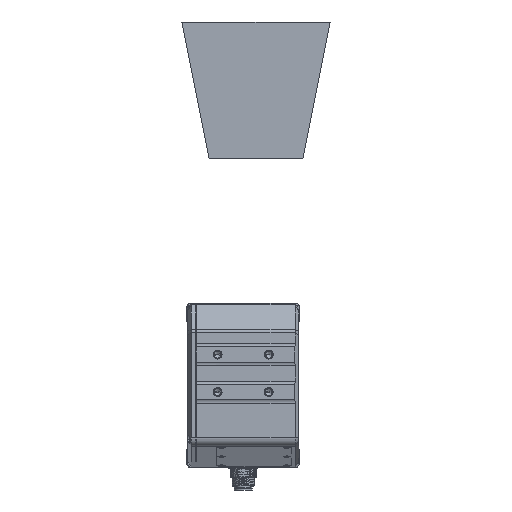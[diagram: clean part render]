
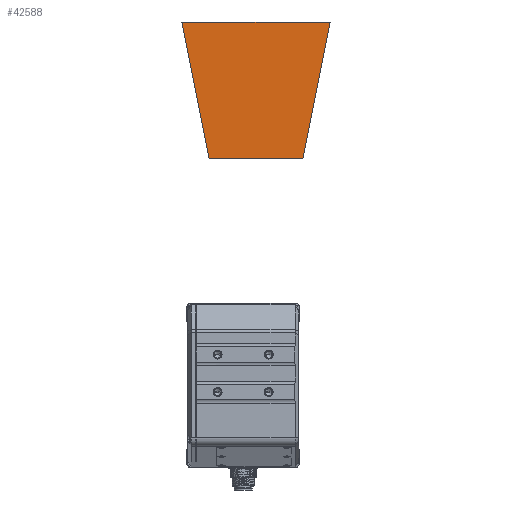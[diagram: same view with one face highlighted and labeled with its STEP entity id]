
A CAD part, left-side view. The second image highlights one B-rep face of the part: STEP entity #42588.
In plain terms, the highlighted planar face has unit normal (1, 0, 0).
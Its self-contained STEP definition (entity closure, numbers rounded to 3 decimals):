
#42549=DIRECTION('',(0.,1.,0.));
#42550=VECTOR('',#42549,87.);
#42551=CARTESIAN_POINT('',(0.,-51.,213.));
#42552=LINE('',#42551,#42550);
#42553=DIRECTION('',(0.,-0.196,-0.981));
#42554=VECTOR('',#42553,81.584);
#42555=CARTESIAN_POINT('',(0.,36.,213.));
#42556=LINE('',#42555,#42554);
#42557=DIRECTION('',(0.,-1.,0.));
#42558=VECTOR('',#42557,55.);
#42559=CARTESIAN_POINT('',(0.,20.,133.));
#42560=LINE('',#42559,#42558);
#42561=DIRECTION('',(0.,-0.196,0.981));
#42562=VECTOR('',#42561,81.584);
#42563=CARTESIAN_POINT('',(0.,-35.,133.));
#42564=LINE('',#42563,#42562);
#42565=CARTESIAN_POINT('',(0.,36.,213.));
#42566=CARTESIAN_POINT('',(0.,-51.,213.));
#42567=VERTEX_POINT('',#42565);
#42568=VERTEX_POINT('',#42566);
#42569=CARTESIAN_POINT('',(0.,-35.,133.));
#42570=VERTEX_POINT('',#42569);
#42571=CARTESIAN_POINT('',(0.,20.,133.));
#42572=VERTEX_POINT('',#42571);
#42573=CARTESIAN_POINT('',(0.,0.,0.));
#42574=DIRECTION('',(1.,0.,0.));
#42575=DIRECTION('',(0.,0.,-1.));
#42576=AXIS2_PLACEMENT_3D('',#42573,#42574,#42575);
#42577=PLANE('',#42576);
#42579=ORIENTED_EDGE('',*,*,#42578,.T.);
#42581=ORIENTED_EDGE('',*,*,#42580,.T.);
#42583=ORIENTED_EDGE('',*,*,#42582,.T.);
#42585=ORIENTED_EDGE('',*,*,#42584,.T.);
#42586=EDGE_LOOP('',(#42579,#42581,#42583,#42585));
#42587=FACE_OUTER_BOUND('',#42586,.F.);
#42588=ADVANCED_FACE('',(#42587),#42577,.T.);
#42578=EDGE_CURVE('',#42568,#42567,#42552,.T.);
#42580=EDGE_CURVE('',#42567,#42572,#42556,.T.);
#42582=EDGE_CURVE('',#42572,#42570,#42560,.T.);
#42584=EDGE_CURVE('',#42570,#42568,#42564,.T.);
